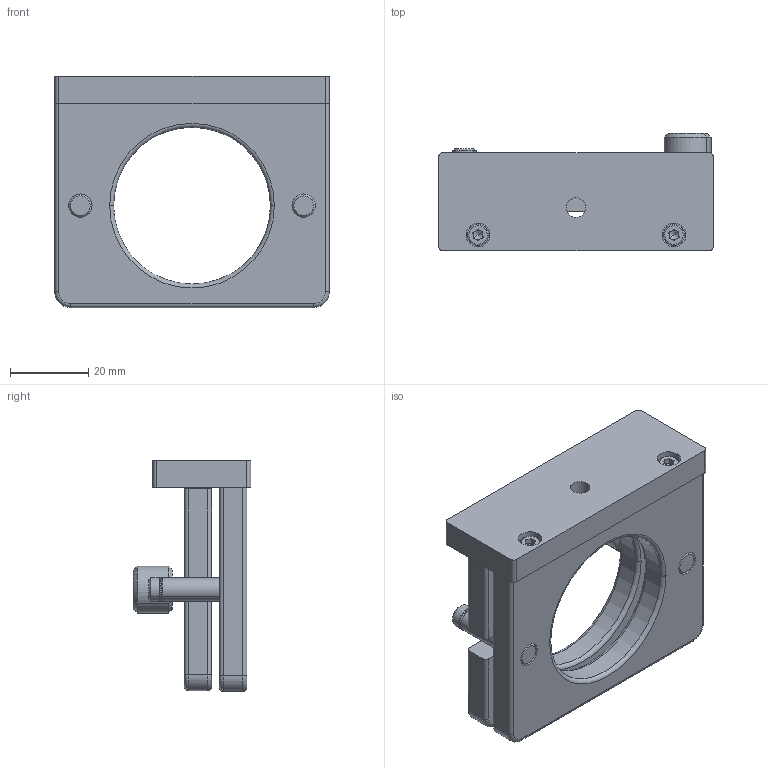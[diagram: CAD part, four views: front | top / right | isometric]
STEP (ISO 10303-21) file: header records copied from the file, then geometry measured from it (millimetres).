
FILE_DESCRIPTION (( 'STEP AP203' ), '1' );
FILE_NAME ('7MMF108薦疏え釱.STEP', '2019-12-04T03:21:28', ( '' ), ( '' ), 'SwSTEP 2.0', 'SolidWorks 2018', '' );
FILE_SCHEMA (( 'CONFIG_CONTROL_DESIGN' ));
Length unit declared in the file: millimetre
Products named in the file (1): 7MMF108薦疏え釱
Bounding box: 70 x 30 x 59 mm (x, y, z)
Volume: 45900 mm3; surface area: 22144.7 mm2
Topology: 12 solids, 12 shells, 222 faces, 505 edges, 301 vertices
Faces by surface type: cylinder 77, plane 77, cone 34, torus 30, sphere 4
Entity records: 6216 total; most frequent: DIRECTION 1167, CARTESIAN_POINT 1077, ORIENTED_EDGE 962, EDGE_CURVE 481, AXIS2_PLACEMENT_3D 469, VERTEX_POINT 295, EDGE_LOOP 254, CIRCLE 246
